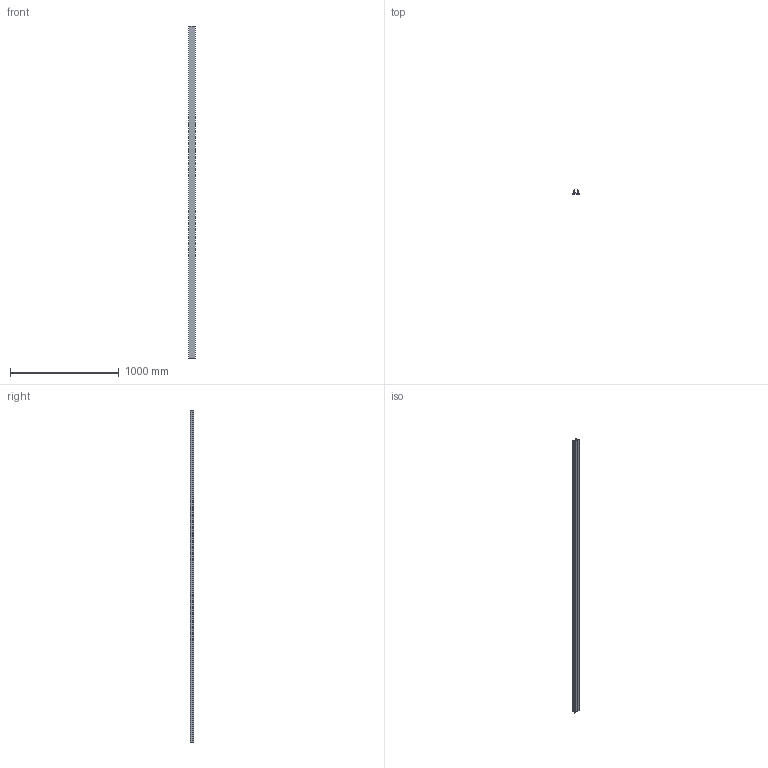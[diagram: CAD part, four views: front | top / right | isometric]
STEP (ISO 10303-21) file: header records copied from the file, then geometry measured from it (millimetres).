
FILE_DESCRIPTION(('TurboCAD Mac Pro'),'Build 980');
FILE_NAME('F20V-1300.stp',' ',(''),(''),'ACIS Interop','IMSI','TurboCAD Mac Pro BY IMSI, INCORPORATED');
FILE_SCHEMA(('automotive_design'));
Length unit declared in the file: inch
Products named in the file (2): 1; 2
Bounding box: 60.33 x 31.75 x 3048 mm (x, y, z)
Volume: 1644463.8 mm3; surface area: 803222.3 mm2
Topology: 1 solids, 1 shells, 35 faces, 99 edges, 66 vertices
Faces by surface type: plane 18, bspline 17
Entity records: 1955 total; most frequent: CARTESIAN_POINT 511, ORIENTED_EDGE 198, DIRECTION 129, EDGE_CURVE 99, LINE 81, VECTOR 81, STYLED_ITEM 68, PRESENTATION_STYLE_ASSIGNMENT 68
